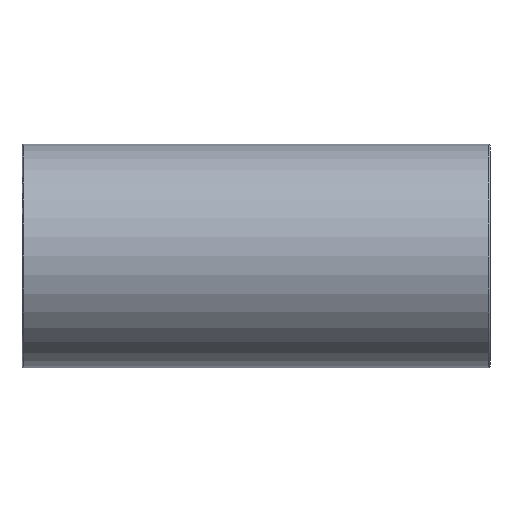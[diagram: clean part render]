
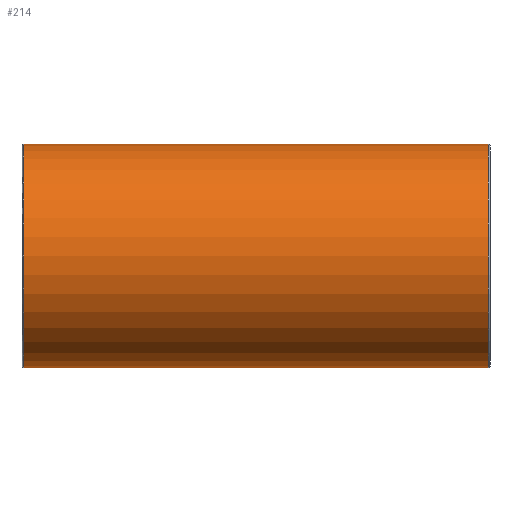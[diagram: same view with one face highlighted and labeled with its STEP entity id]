
A CAD part, front view. The second image highlights one B-rep face of the part: STEP entity #214.
In plain terms, the highlighted cylindrical face has radius 11 mm (diameter 22 mm), a full revolution.
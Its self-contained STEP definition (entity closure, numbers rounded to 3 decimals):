
#26=ELLIPSE('',#237,15.556,11.);
#27=ELLIPSE('',#238,15.556,11.);
#30=FACE_BOUND('',#69,.T.);
#31=FACE_BOUND('',#70,.T.);
#50=FACE_OUTER_BOUND('',#68,.T.);
#68=EDGE_LOOP('',(#165));
#69=EDGE_LOOP('',(#166));
#70=EDGE_LOOP('',(#167,#168));
#106=CIRCLE('',#235,11.);
#107=CIRCLE('',#236,11.);
#123=VERTEX_POINT('',#355);
#124=VERTEX_POINT('',#357);
#125=VERTEX_POINT('',#359);
#126=VERTEX_POINT('',#360);
#144=EDGE_CURVE('',#123,#123,#106,.T.);
#145=EDGE_CURVE('',#124,#124,#107,.T.);
#146=EDGE_CURVE('',#125,#126,#26,.T.);
#147=EDGE_CURVE('',#126,#125,#27,.T.);
#165=ORIENTED_EDGE('',*,*,#144,.F.);
#166=ORIENTED_EDGE('',*,*,#145,.F.);
#167=ORIENTED_EDGE('',*,*,#146,.F.);
#168=ORIENTED_EDGE('',*,*,#147,.F.);
#207=CYLINDRICAL_SURFACE('',#234,11.);
#214=ADVANCED_FACE('',(#50,#30,#31),#207,.T.);
#234=AXIS2_PLACEMENT_3D('',#354,#275,#276);
#235=AXIS2_PLACEMENT_3D('',#356,#277,#278);
#236=AXIS2_PLACEMENT_3D('',#358,#279,#280);
#237=AXIS2_PLACEMENT_3D('',#361,#281,#282);
#238=AXIS2_PLACEMENT_3D('',#362,#283,#284);
#275=DIRECTION('center_axis',(1.,0.,0.));
#276=DIRECTION('ref_axis',(0.,1.,0.));
#277=DIRECTION('center_axis',(-1.,0.,0.));
#278=DIRECTION('ref_axis',(0.,-1.,0.));
#279=DIRECTION('center_axis',(1.,0.,0.));
#280=DIRECTION('ref_axis',(0.,-1.,0.));
#281=DIRECTION('center_axis',(-0.707,0.707,0.));
#282=DIRECTION('ref_axis',(0.707,0.707,0.));
#283=DIRECTION('center_axis',(0.707,0.707,0.));
#284=DIRECTION('ref_axis',(-0.707,0.707,0.));
#354=CARTESIAN_POINT('Origin',(0.,0.,
0.));
#355=CARTESIAN_POINT('',(-22.851,11.,0.));
#356=CARTESIAN_POINT('Origin',(-22.851,0.,0.));
#357=CARTESIAN_POINT('',(22.851,11.,0.));
#358=CARTESIAN_POINT('Origin',(22.851,0.,0.));
#359=CARTESIAN_POINT('',(0.,0.,11.));
#360=CARTESIAN_POINT('',(0.,0.,-11.));
#361=CARTESIAN_POINT('Origin',(0.,0.,0.));
#362=CARTESIAN_POINT('Origin',(0.,0.,0.));
